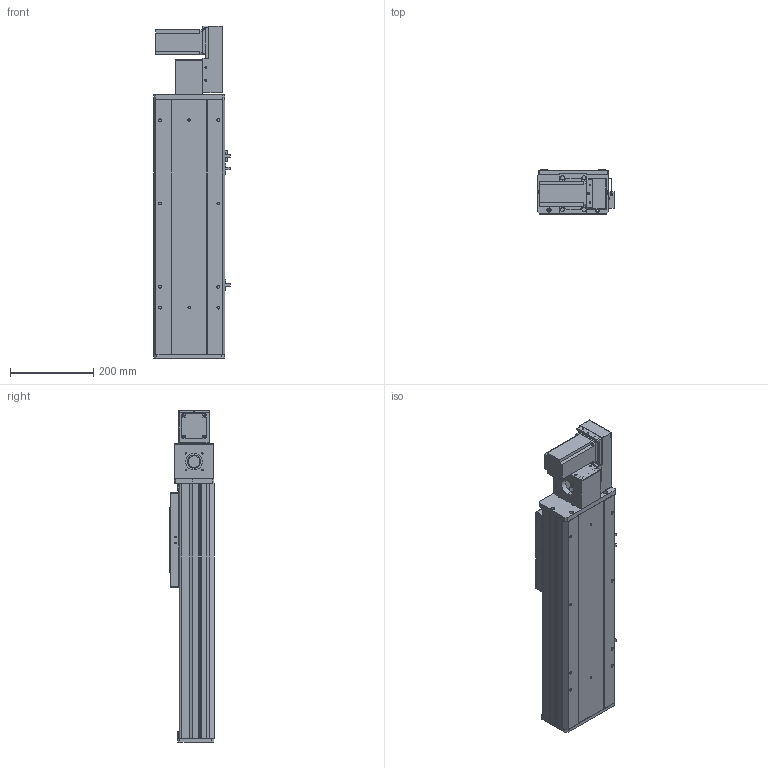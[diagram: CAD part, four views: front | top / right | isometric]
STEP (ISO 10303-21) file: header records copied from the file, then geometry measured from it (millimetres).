
FILE_DESCRIPTION (( 'STEP AP203' ), '1' );
FILE_NAME ('Y170CB-D105-S300-BR-P400W.STEP', '2020-02-19T08:40:05', ( '微软用户' ), ( '微软中国' ), 'SwSTEP 2.0', 'SolidWorks 2017', '' );
FILE_SCHEMA (( 'CONFIG_CONTROL_DESIGN' ));
Length unit declared in the file: millimetre
Products named in the file (17): 70CB-詩湍--; Y100-135俋离換覜ん--; Y170CB-陔俋离換覜結え---; Y170CB-D105-S300-BR-P400W; 70B喘謫眊----; B-源倛裔啣; 17B-耜蚾蟀諉啣----; 0B-萇儂楊擘啣; san松下电机400不带刹车----; Y70俋欶BR----; 70CB-掛极-; --70CB --喘謫眊楊擘啣-; 70CB-耜裔啣-; 70C--詩湍揤踡え-; 70CB--耜裔; 70C-雄赽釱-奻-; 0C--雄赽釱俋欶-170
Assembly tree (20 placements, depth 2):
  Y170CB-D105-S300-BR-P400W
    70B喘謫眊----
    B-源倛裔啣
    17B-耜蚾蟀諉啣----
    0B-萇儂楊擘啣
    san松下电机400不带刹车----
    Y70俋欶BR----
    70CB-掛极-
    --70CB --喘謫眊楊擘啣-
    70CB-耜裔啣-  x2
    70C--詩湍揤踡え-  x2
    70CB--耜裔
    70C-雄赽釱-奻-
    0C--雄赽釱俋欶-170
    70CB-詩湍--
    Y100-135俋离換覜ん--  x3
    Y170CB-陔俋离換覜結え---
Bounding box: 183.5 x 107 x 797 mm (x, y, z)
Volume: 3775605.3 mm3; surface area: 1330389.5 mm2
Topology: 20 solids, 20 shells, 969 faces, 2585 edges, 1714 vertices
Faces by surface type: cylinder 483, plane 462, cone 24
Entity records: 30583 total; most frequent: CARTESIAN_POINT 5601, DIRECTION 4972, ORIENTED_EDGE 4652, EDGE_CURVE 2326, AXIS2_PLACEMENT_3D 1805, VERTEX_POINT 1544, VECTOR 1362, LINE 1362
